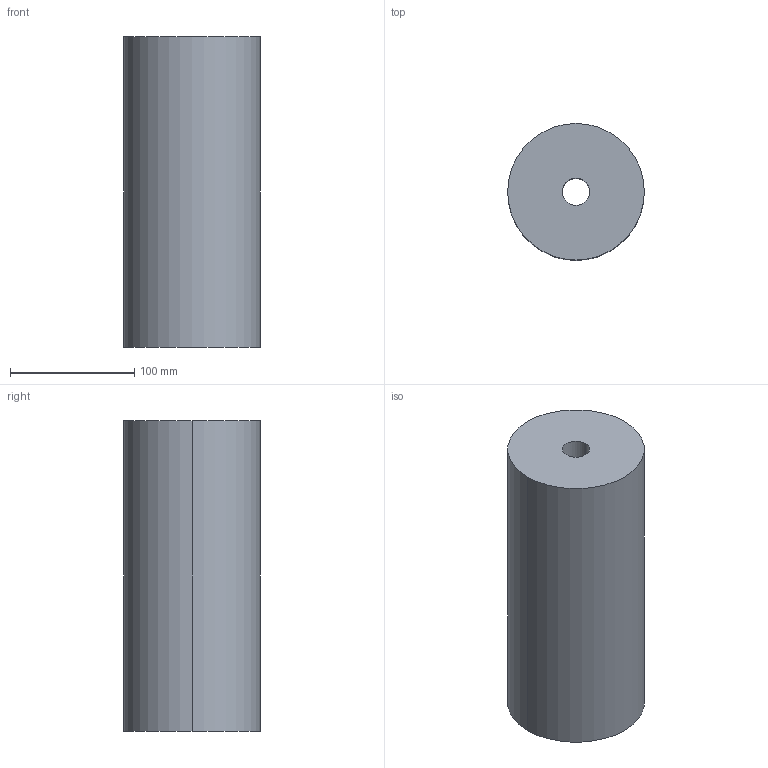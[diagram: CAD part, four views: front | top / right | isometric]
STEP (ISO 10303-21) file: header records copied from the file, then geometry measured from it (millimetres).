
FILE_DESCRIPTION(/* description */ (''),/* implementation_level */ '2;1');
FILE_NAME(/* name */ '3d_e110-250_03723_r00.stp',/* time_stamp */ '2011-01-10T14:15:49+09:00',/* author */ ('MISUMI'),/* organization */ (''),/* preprocessor_version */ 'ST-DEVELOPER v11',/* originating_system */ 'UGS - NX 5.0',/* authorisation */ '');
FILE_SCHEMA (('CONFIG_CONTROL_DESIGN'));
Length unit declared in the file: millimetre
Products named in the file (1): 3d_e110-250_03723_r00
Bounding box: 110 x 110 x 250 mm (x, y, z)
Volume: 2280796.3 mm3; surface area: 121918.9 mm2
Topology: 1 solids, 1 shells, 6 faces, 12 edges, 8 vertices
Faces by surface type: cylinder 4, plane 2
Entity records: 254 total; most frequent: DIRECTION 34, CARTESIAN_POINT 27, ORIENTED_EDGE 24, AXIS2_PLACEMENT_3D 15, EDGE_CURVE 12, EDGE_LOOP 8, VERTEX_POINT 8, CIRCLE 8
